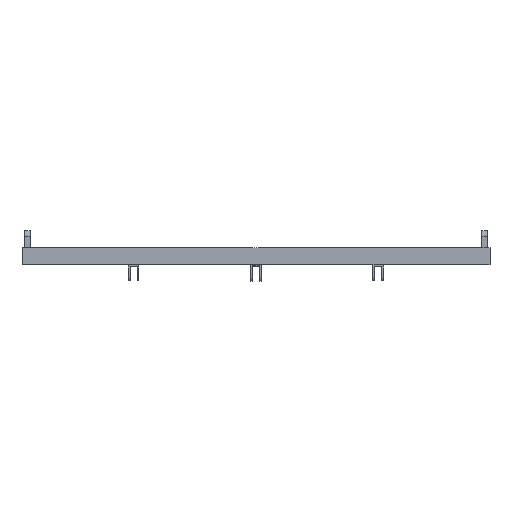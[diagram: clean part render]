
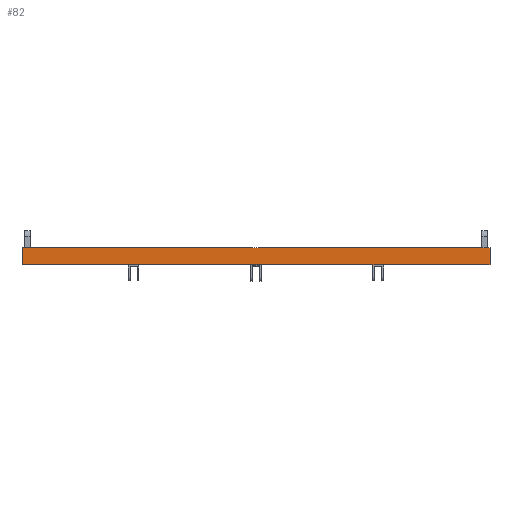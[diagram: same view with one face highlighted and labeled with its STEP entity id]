
A CAD part, top view. The second image highlights one B-rep face of the part: STEP entity #82.
In plain terms, the highlighted planar face has unit normal (0, 0, 1) as drawn and (0, -1, 0) by its records, which use the part's own axes.
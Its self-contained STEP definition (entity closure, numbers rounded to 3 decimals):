
#80 = EDGE_LOOP ( 'NONE', ( #6313, #6309, #6301, #6305, #6295, #6282, #6283, #6276 ) ) ;
#82 = ADVANCED_FACE ( 'NONE', ( #3482 ), #3479, .T. ) ;
#194 = VERTEX_POINT ( 'NONE', #3284 ) ;
#196 = VERTEX_POINT ( 'NONE', #3282 ) ;
#235 = VERTEX_POINT ( 'NONE', #2005 ) ;
#318 = VERTEX_POINT ( 'NONE', #2310 ) ;
#382 = EDGE_CURVE ( 'NONE', #194, #235, #2322, .T. ) ;
#390 = EDGE_CURVE ( 'NONE', #318, #196, #2439, .T. ) ;
#1054 = CARTESIAN_POINT ( 'NONE',  ( 1100., 0., 262.476 ) ) ;
#1055 = CARTESIAN_POINT ( 'NONE',  ( 1016.638, 0., 262.476 ) ) ;
#1056 = CARTESIAN_POINT ( 'NONE',  ( 933.277, 0., 262.476 ) ) ;
#1057 = CARTESIAN_POINT ( 'NONE',  ( 849.915, 0., 262.476 ) ) ;
#1059 = B_SPLINE_CURVE_WITH_KNOTS ( 'NONE', 3,
 ( #1057, #1056, #1055, #1054 ),
 .UNSPECIFIED., .F., .F.,
 ( 4, 4 ),
 ( 0., 1. ),
 .UNSPECIFIED. ) ;
#1060 = CARTESIAN_POINT ( 'NONE',  ( 1100., 0., 262.476 ) ) ;
#1061 = CARTESIAN_POINT ( 'NONE',  ( 249.915, 0., 262.476 ) ) ;
#1062 = CARTESIAN_POINT ( 'NONE',  ( 166.61, 0., 262.476 ) ) ;
#1063 = CARTESIAN_POINT ( 'NONE',  ( 83.305, 0., 262.476 ) ) ;
#1064 = CARTESIAN_POINT ( 'NONE',  ( 0., 0., 262.476 ) ) ;
#1065 = B_SPLINE_CURVE_WITH_KNOTS ( 'NONE', 3,
 ( #1064, #1063, #1062, #1061 ),
 .UNSPECIFIED., .F., .F.,
 ( 4, 4 ),
 ( 0., 1. ),
 .UNSPECIFIED. ) ;
#1088 = CARTESIAN_POINT ( 'NONE',  ( 824.915, 0., 262.476 ) ) ;
#1089 = CARTESIAN_POINT ( 'NONE',  ( 641.582, 0., 262.476 ) ) ;
#1090 = CARTESIAN_POINT ( 'NONE',  ( 458.249, 0., 262.476 ) ) ;
#1091 = CARTESIAN_POINT ( 'NONE',  ( 274.915, 0., 262.476 ) ) ;
#1093 = B_SPLINE_CURVE_WITH_KNOTS ( 'NONE', 3,
 ( #1091, #1090, #1089, #1088 ),
 .UNSPECIFIED., .F., .F.,
 ( 4, 4 ),
 ( 0., 1. ),
 .UNSPECIFIED. ) ;
#1150 = CARTESIAN_POINT ( 'NONE',  ( 0., 0., 262.476 ) ) ;
#1155 = CARTESIAN_POINT ( 'NONE',  ( 0., 0., 302.476 ) ) ;
#1225 = DIRECTION ( 'NONE',  ( 0., 0., 1. ) ) ;
#1226 = VECTOR ( 'NONE', #1225, 1000. ) ;
#1227 = CARTESIAN_POINT ( 'NONE',  ( 1100., 0., 302.476 ) ) ;
#1228 = LINE ( 'NONE', #1227, #1226 ) ;
#1231 = CARTESIAN_POINT ( 'NONE',  ( 1100., 0., 302.476 ) ) ;
#1339 = DIRECTION ( 'NONE',  ( 1., 0., 0. ) ) ;
#1340 = VECTOR ( 'NONE', #1339, 1000. ) ;
#1341 = CARTESIAN_POINT ( 'NONE',  ( 0., 0., 302.476 ) ) ;
#1342 = LINE ( 'NONE', #1341, #1340 ) ;
#1360 = DIRECTION ( 'NONE',  ( 0., 0., -1. ) ) ;
#1361 = VECTOR ( 'NONE', #1360, 1000. ) ;
#1365 = CARTESIAN_POINT ( 'NONE',  ( 0., 0., 262.476 ) ) ;
#1366 = LINE ( 'NONE', #1365, #1361 ) ;
#2005 = CARTESIAN_POINT ( 'NONE',  ( 849.915, 0., 262.476 ) ) ;
#2310 = CARTESIAN_POINT ( 'NONE',  ( 249.915, 0., 262.476 ) ) ;
#2322 = B_SPLINE_CURVE_WITH_KNOTS ( 'NONE', 3,
 ( #2392, #2391, #2390, #2389 ),
 .UNSPECIFIED., .F., .F.,
 ( 4, 4 ),
 ( 0., 1. ),
 .UNSPECIFIED. ) ;
#2389 = CARTESIAN_POINT ( 'NONE',  ( 849.915, 0., 262.476 ) ) ;
#2390 = CARTESIAN_POINT ( 'NONE',  ( 841.582, 0., 262.476 ) ) ;
#2391 = CARTESIAN_POINT ( 'NONE',  ( 833.249, 0., 262.476 ) ) ;
#2392 = CARTESIAN_POINT ( 'NONE',  ( 824.915, 0., 262.476 ) ) ;
#2434 = CARTESIAN_POINT ( 'NONE',  ( 274.915, 0., 262.476 ) ) ;
#2435 = CARTESIAN_POINT ( 'NONE',  ( 266.582, 0., 262.476 ) ) ;
#2436 = CARTESIAN_POINT ( 'NONE',  ( 258.249, 0., 262.476 ) ) ;
#2437 = CARTESIAN_POINT ( 'NONE',  ( 249.915, 0., 262.476 ) ) ;
#2439 = B_SPLINE_CURVE_WITH_KNOTS ( 'NONE', 3,
 ( #2437, #2436, #2435, #2434 ),
 .UNSPECIFIED., .F., .F.,
 ( 4, 4 ),
 ( 0., 1. ),
 .UNSPECIFIED. ) ;
#3282 = CARTESIAN_POINT ( 'NONE',  ( 274.915, 0., 262.476 ) ) ;
#3284 = CARTESIAN_POINT ( 'NONE',  ( 824.915, 0., 262.476 ) ) ;
#3475 = DIRECTION ( 'NONE',  ( 0., 0., -1. ) ) ;
#3476 = DIRECTION ( 'NONE',  ( 0., -1., 0. ) ) ;
#3477 = CARTESIAN_POINT ( 'NONE',  ( 0., 0., 262.476 ) ) ;
#3478 = AXIS2_PLACEMENT_3D ( 'NONE', #3477, #3476, #3475 ) ;
#3479 = PLANE ( 'NONE',  #3478 ) ;
#3482 = FACE_OUTER_BOUND ( 'NONE', #80, .T. ) ;
#4406 = VERTEX_POINT ( 'NONE', #1155 ) ;
#4438 = EDGE_CURVE ( 'NONE', #196, #194, #1093, .T. ) ;
#4590 = EDGE_CURVE ( 'NONE', #4637, #318, #1065, .T. ) ;
#4591 = EDGE_CURVE ( 'NONE', #235, #4606, #1059, .T. ) ;
#4606 = VERTEX_POINT ( 'NONE', #1060 ) ;
#4637 = VERTEX_POINT ( 'NONE', #1150 ) ;
#5063 = EDGE_CURVE ( 'NONE', #4406, #4637, #1366, .T. ) ;
#6276 = ORIENTED_EDGE ( 'NONE', *, *, #390, .T. ) ;
#6282 = ORIENTED_EDGE ( 'NONE', *, *, #5063, .T. ) ;
#6283 = ORIENTED_EDGE ( 'NONE', *, *, #4590, .T. ) ;
#6284 = EDGE_CURVE ( 'NONE', #4406, #6302, #1342, .T. ) ;
#6295 = ORIENTED_EDGE ( 'NONE', *, *, #6284, .F. ) ;
#6301 = ORIENTED_EDGE ( 'NONE', *, *, #4591, .T. ) ;
#6302 = VERTEX_POINT ( 'NONE', #1231 ) ;
#6305 = ORIENTED_EDGE ( 'NONE', *, *, #6306, .T. ) ;
#6306 = EDGE_CURVE ( 'NONE', #4606, #6302, #1228, .T. ) ;
#6309 = ORIENTED_EDGE ( 'NONE', *, *, #382, .T. ) ;
#6313 = ORIENTED_EDGE ( 'NONE', *, *, #4438, .T. ) ;
